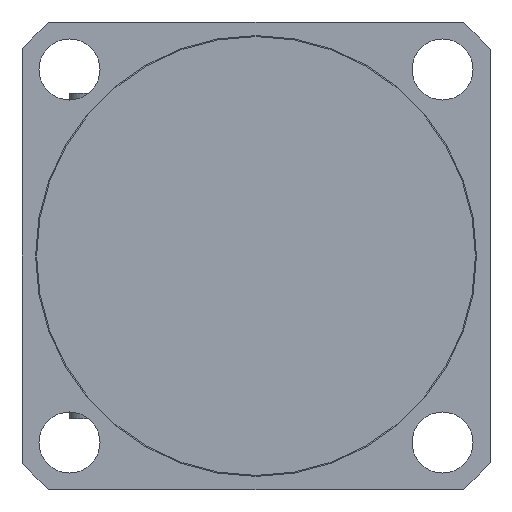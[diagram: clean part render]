
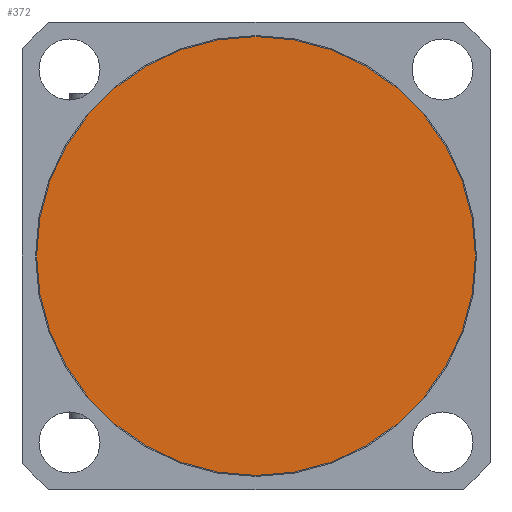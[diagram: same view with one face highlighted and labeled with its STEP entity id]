
A CAD part, front view. The second image highlights one B-rep face of the part: STEP entity #372.
In plain terms, the highlighted planar face has unit normal (0, -1, 0).
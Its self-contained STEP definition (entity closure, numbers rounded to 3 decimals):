
#372 = ADVANCED_FACE( '', ( #870 ), #871, .T. );
#870 = FACE_OUTER_BOUND( '', #1847, .T. );
#871 = PLANE( '', #1848 );
#1847 = EDGE_LOOP( '', ( #3002 ) );
#1848 = AXIS2_PLACEMENT_3D( '', #3003, #3004, #3005 );
#3002 = ORIENTED_EDGE( '', *, *, #6074, .T. );
#3003 = CARTESIAN_POINT( '', ( 0., -79.5, 0. ) );
#3004 = DIRECTION( '', ( 0., -1., 0. ) );
#3005 = DIRECTION( '', ( 1., 0., 0. ) );
#6074 = EDGE_CURVE( '', #7178, #7178, #7179, .T. );
#7178 = VERTEX_POINT( '', #8956 );
#7179 = CIRCLE( '', #8957, 32.35 );
#8956 = CARTESIAN_POINT( '', ( -32.35, -79.5, 0. ) );
#8957 = AXIS2_PLACEMENT_3D( '', #11254, #11255, #11256 );
#11254 = CARTESIAN_POINT( '', ( 0., -79.5, 0. ) );
#11255 = DIRECTION( '', ( 0., -1., 0. ) );
#11256 = DIRECTION( '', ( -1., 0., 0. ) );
